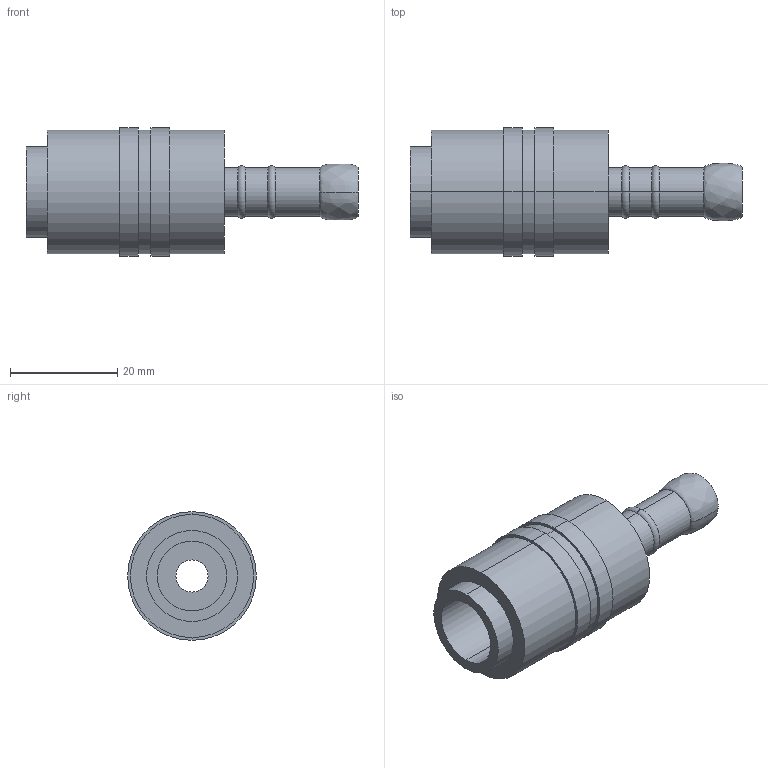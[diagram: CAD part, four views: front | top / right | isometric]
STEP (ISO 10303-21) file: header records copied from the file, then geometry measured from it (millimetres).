
FILE_DESCRIPTION (( 'STEP AP214' ), '1' );
FILE_NAME ('BruYRubio_BR80_13_09.STEP', '2020-06-22T14:01:07', ( '' ), ( '' ), 'SwSTEP 2.0', 'SolidWorks 2018', '' );
FILE_SCHEMA (( 'AUTOMOTIVE_DESIGN' ));
Length unit declared in the file: millimetre
Products named in the file (1): BruYRubio_BR80_13_09
Bounding box: 62 x 24.02 x 24.02 mm (x, y, z)
Volume: 11737.6 mm3; surface area: 6153.4 mm2
Topology: 1 solids, 1 shells, 39 faces, 80 edges, 48 vertices
Faces by surface type: cylinder 22, plane 7, cone 4, torus 4, bspline 2
Entity records: 1098 total; most frequent: DIRECTION 206, CARTESIAN_POINT 204, ORIENTED_EDGE 160, AXIS2_PLACEMENT_3D 90, EDGE_CURVE 80, CIRCLE 52, VERTEX_POINT 48, EDGE_LOOP 46
